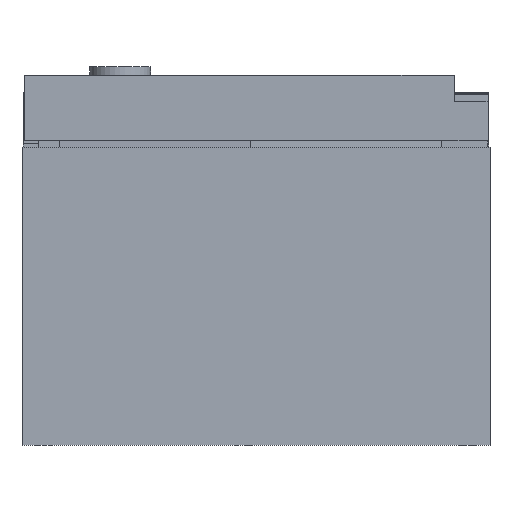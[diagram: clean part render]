
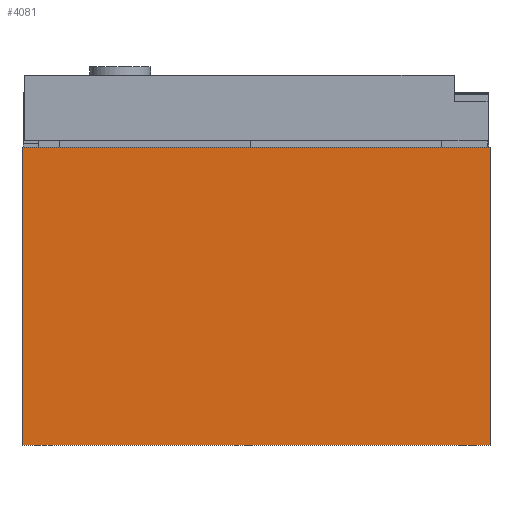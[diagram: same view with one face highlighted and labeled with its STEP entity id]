
A CAD part, front view. The second image highlights one B-rep face of the part: STEP entity #4081.
In plain terms, the highlighted planar face has unit normal (0, -1, 0).
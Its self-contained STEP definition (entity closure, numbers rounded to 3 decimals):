
#352=ORIENTED_EDGE('',*,*,#1475,.T.);
#353=ORIENTED_EDGE('',*,*,#1476,.F.);
#354=ORIENTED_EDGE('',*,*,#1444,.F.);
#355=ORIENTED_EDGE('',*,*,#1474,.T.);
#1444=EDGE_CURVE('',#1993,#1994,#2417,.T.);
#1474=EDGE_CURVE('',#1993,#2019,#2447,.T.);
#1475=EDGE_CURVE('',#2019,#2020,#2448,.T.);
#1476=EDGE_CURVE('',#1994,#2020,#2449,.T.);
#1993=VERTEX_POINT('',#6024);
#1994=VERTEX_POINT('',#6026);
#2019=VERTEX_POINT('',#6083);
#2020=VERTEX_POINT('',#6087);
#2417=LINE('',#6025,#2950);
#2447=LINE('',#6084,#2980);
#2448=LINE('',#6086,#2981);
#2449=LINE('',#6088,#2982);
#2950=VECTOR('',#4827,1000.);
#2980=VECTOR('',#4863,1000.);
#2981=VECTOR('',#4866,1000.);
#2982=VECTOR('',#4867,1000.);
#3342=EDGE_LOOP('',(#352,#353,#354,#355));
#3613=FACE_BOUND('',#3342,.T.);
#3879=PLANE('',#4357);
#4081=ADVANCED_FACE('',(#3613),#3879,.F.);
#4357=AXIS2_PLACEMENT_3D('',#6085,#4864,#4865);
#4827=DIRECTION('',(1.,0.,0.));
#4863=DIRECTION('',(0.,0.,-1.));
#4864=DIRECTION('',(0.,1.,0.));
#4865=DIRECTION('',(0.,0.,1.));
#4866=DIRECTION('',(1.,0.,0.));
#4867=DIRECTION('',(0.,0.,-1.));
#6024=CARTESIAN_POINT('',(-107.5,0.,135.));
#6025=CARTESIAN_POINT('',(-107.5,0.,135.));
#6026=CARTESIAN_POINT('',(107.5,0.,135.));
#6083=CARTESIAN_POINT('',(-107.5,0.,-2.));
#6084=CARTESIAN_POINT('',(-107.5,0.,135.));
#6085=CARTESIAN_POINT('',(-107.5,0.,135.));
#6086=CARTESIAN_POINT('',(-107.5,0.,-2.));
#6087=CARTESIAN_POINT('',(107.5,0.,-2.));
#6088=CARTESIAN_POINT('',(107.5,0.,135.));
